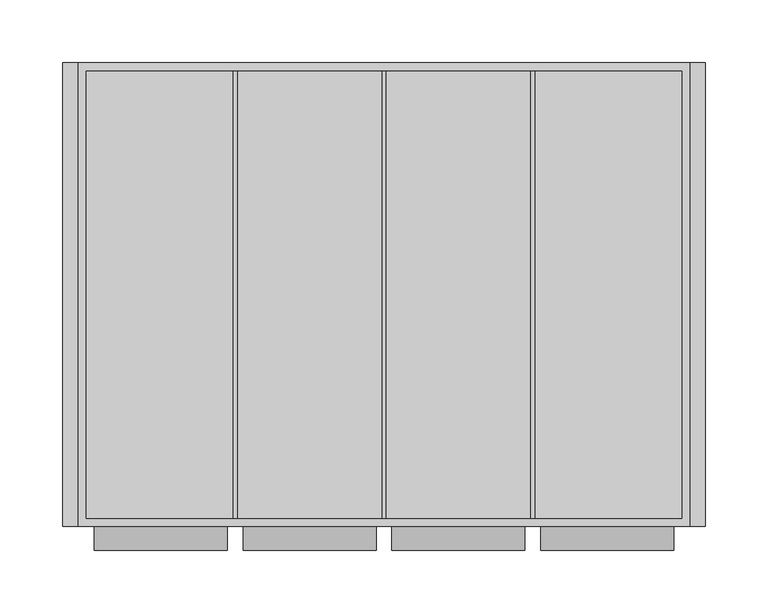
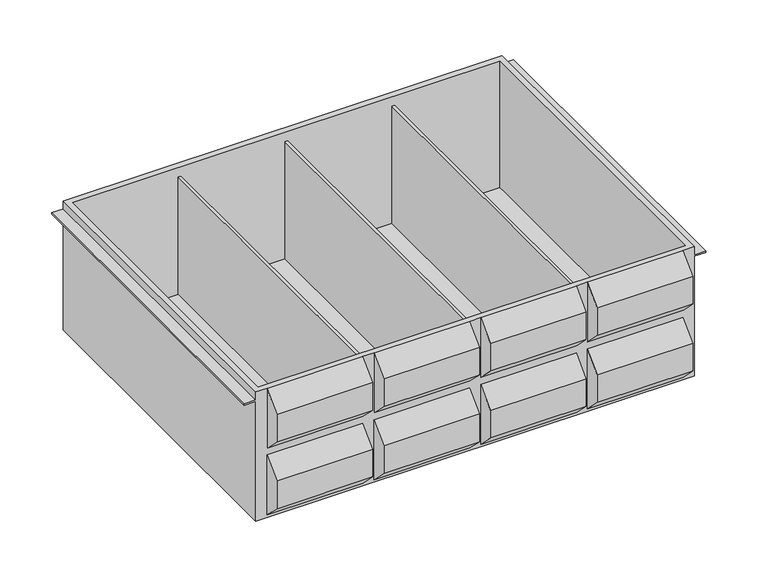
"""IFC4 building model written with IfcOpenShell, lengths in millimetres: furniture geometry, HermanMiller_CoStruc_CO565_Cassette Assembly : 6H x 15D x 20W."""

import ifcopenshell
import ifcopenshell.guid

model = None  # the IFC model being written
_history = None  # IfcOwnerHistory: only IFC2X3 demands one
_inside = {}  # id of a spatial element -> (the spatial element, [elements in it])
_under = {}  # id of a project, library or spatial element -> (it, [spatial elements below it])
_declared = {}  # id of a project -> (the project, [libraries it declares])
_typed = {}  # id of a type object -> (the type object, [elements of that type])
_made_of = {}  # id of a material, layer set ... -> (it, [elements and type objects made of it])


def new_model(schema):
    """Start an empty IFC model of exactly this schema.

    Asked for "IFC4X3", IfcOpenShell would pick the latest addendum, in which some entities
    have other attributes; the version numbers below select the first issue.
    IFC2X3 requires an IfcOwnerHistory on every rooted entity: one is made here for all.
    """
    global model, _history
    if schema == "IFC4X3":
        model = ifcopenshell.file(schema_version=(4, 3, 0, 0))
    else:
        model = ifcopenshell.file(schema=schema)
    _inside.clear()
    _under.clear()
    _declared.clear()
    _typed.clear()
    _made_of.clear()
    _history = None
    if model.schema == "IFC2X3":
        org = make("IfcOrganization", Name="unknown")
        user = make(
            "IfcPersonAndOrganization",
            ThePerson=make("IfcPerson", FamilyName="unknown"),
            TheOrganization=org,
        )
        app = make(
            "IfcApplication",
            ApplicationDeveloper=org,
            Version="unknown",
            ApplicationFullName="unknown",
            ApplicationIdentifier="unknown",
        )
        _history = make(
            "IfcOwnerHistory",
            OwningUser=user,
            OwningApplication=app,
            ChangeAction="ADDED",
            CreationDate=0,
        )
    return model


def make(cls, **values):
    """One entity of the class cls with the attributes given. An attribute that is None is left unset."""
    return model.create_entity(
        cls, **{name: value for name, value in values.items() if value is not None}
    )


def rooted(cls, **values):
    """An entity with a GlobalId (a new one), such as an element, a storey or a relation."""
    return make(cls, GlobalId=ifcopenshell.guid.new(), OwnerHistory=_history, **values)


def si_unit(unit_type, name, prefix=None):
    """IfcSIUnit, for example si_unit("LENGTHUNIT", "METRE", prefix="MILLI")."""
    return make("IfcSIUnit", UnitType=unit_type, Prefix=prefix, Name=name)


def assignment(units):
    """IfcUnitAssignment: the units of a project."""
    return None if units is None else make("IfcUnitAssignment", Units=units)


def point(xyz):
    """IfcCartesianPoint."""
    return None if xyz is None else make("IfcCartesianPoint", Coordinates=xyz)


def direction(xyz):
    """IfcDirection."""
    return None if xyz is None else make("IfcDirection", DirectionRatios=xyz)


def frame(location, z_axis=None, x_axis=None):
    """IfcAxis2Placement3D, a coordinate frame: its origin and axes. An axis left out is left unset."""
    return make(
        "IfcAxis2Placement3D",
        Location=point(location),
        Axis=direction(z_axis),
        RefDirection=direction(x_axis),
    )


def origin():
    """The frame at (0, 0, 0) with its axes left unset."""
    return frame((0.0, 0.0, 0.0))


def place(relative_to, where):
    """IfcLocalPlacement: puts the frame where relative to a parent placement (None: the world)."""
    return make(
        "IfcLocalPlacement", PlacementRelTo=relative_to, RelativePlacement=where
    )


def context(
    kind, dimensions, precision=None, world=None, true_north=None, identifier=None
):
    """IfcGeometricRepresentationContext, for example the 3D "Model" context."""
    return make(
        "IfcGeometricRepresentationContext",
        ContextIdentifier=identifier,
        ContextType=kind,
        CoordinateSpaceDimension=dimensions,
        Precision=precision,
        WorldCoordinateSystem=world,
        TrueNorth=true_north,
    )


def project(units=None, contexts=None):
    """IfcProject with its units and contexts."""
    return rooted(
        "IfcProject",
        Name="project",
        RepresentationContexts=contexts,
        UnitsInContext=assignment(units),
    )


def spatial(cls, under=None, at=None, **own):
    """A site, building, storey or space (cls), placed at a placement, below another one or the project."""
    s = rooted(cls, ObjectPlacement=at, **own)
    if under is not None:
        _under.setdefault(under.id(), (under, []))[1].append(s)
    return s


def faces_of(points, faces, orient=None, outer=None):
    """IfcFace entities. A face is a list of loops; a loop is a list of indices into points, from 0.

    orient and outer hold one flag for each loop. By default every Orientation is true, the
    first loop of a face is its IfcFaceOuterBound and the others are IfcFaceBound.
    """
    made = []
    for i, loops in enumerate(faces):
        bounds = []
        for j, loop in enumerate(loops):
            is_outer = j == 0 if outer is None else outer[i][j]
            bounds.append(
                make(
                    "IfcFaceOuterBound" if is_outer else "IfcFaceBound",
                    Bound=make("IfcPolyLoop", Polygon=[points[k] for k in loop]),
                    Orientation=True if orient is None else orient[i][j],
                )
            )
        made.append(make("IfcFace", Bounds=bounds))
    return made


def faceted_brep(points, faces, orient=None, outer=None, voids=None):
    """IfcFacetedBrep: a solid bounded by flat faces; with voids (closed shells), ...WithVoids."""
    shared = [point(p) for p in points]
    hull = make("IfcClosedShell", CfsFaces=faces_of(shared, faces, orient, outer))
    if voids is None:
        return make("IfcFacetedBrep", Outer=hull)
    return make(
        "IfcFacetedBrepWithVoids",
        Outer=hull,
        Voids=[
            make(cls, CfsFaces=faces_of(shared, fs, o, b)) for cls, fs, o, b in voids
        ],
    )


def shape(context_of_items, identifier, shape_type, items):
    """IfcShapeRepresentation: the items that make up one representation, for example the "Body"."""
    return make(
        "IfcShapeRepresentation",
        ContextOfItems=context_of_items,
        RepresentationIdentifier=identifier,
        RepresentationType=shape_type,
        Items=items,
    )


def source(mapping_origin, context_of_items, identifier, shape_type, items):
    """IfcRepresentationMap: a shape defined once, which mapped items show again and again."""
    return make(
        "IfcRepresentationMap",
        MappingOrigin=mapping_origin,
        MappedRepresentation=shape(context_of_items, identifier, shape_type, items),
    )


def transform(
    local_origin,
    x_axis=None,
    y_axis=None,
    z_axis=None,
    scale=None,
    scale2=None,
    scale3=None,
    uniform=True,
):
    """IfcCartesianTransformationOperator3D, or its non-uniform kind. x_axis, y_axis, z_axis: its Axis1, 2, 3."""
    if uniform:
        return make(
            "IfcCartesianTransformationOperator3D",
            Axis1=direction(x_axis),
            Axis2=direction(y_axis),
            LocalOrigin=point(local_origin),
            Scale=scale,
            Axis3=direction(z_axis),
        )
    return make(
        "IfcCartesianTransformationOperator3DnonUniform",
        Axis1=direction(x_axis),
        Axis2=direction(y_axis),
        LocalOrigin=point(local_origin),
        Scale=scale,
        Axis3=direction(z_axis),
        Scale2=scale2,
        Scale3=scale3,
    )


def mapped(mapping_source, mapping_target):
    """IfcMappedItem: shows the shape of a source again, moved by a transform."""
    return make(
        "IfcMappedItem", MappingSource=mapping_source, MappingTarget=mapping_target
    )


def made_of(thing, what):
    """Note that an element or type object is made of a material, layer set ...; save() writes the relation."""
    if what is not None:
        _made_of.setdefault(what.id(), (what, []))[1].append(thing)
    return thing


def element(
    cls,
    number,
    at=None,
    inside=None,
    cuts=None,
    type_object=None,
    material=None,
    context=None,
    identifier="Body",
    shape_type=None,
    held_by="IfcProductDefinitionShape",
    body=None,
    shapes=None,
    **own,
):
    """One element of the class cls, such as IfcWall. Its Tag is "e" and its number.

    at: its placement. inside: the storey or other place that contains it. cuts: it is an
    opening in that element (IfcRelVoidsElement). A single representation is given by context,
    identifier, shape_type and body (its items); several are given by shapes. held_by: the class
    of the entity that holds the representations. save() writes the other relations.
    """
    e = rooted(cls, Tag="e%d" % number, ObjectPlacement=at, **own)
    if body is not None:
        shapes = [shape(context, identifier, shape_type, body)]
    if shapes is not None:
        e.Representation = make(held_by, Representations=shapes)
    if inside is not None:
        _inside.setdefault(inside.id(), (inside, []))[1].append(e)
    if cuts is not None:
        rooted(
            "IfcRelVoidsElement", RelatingBuildingElement=cuts, RelatedOpeningElement=e
        )
    if type_object is not None:
        _typed.setdefault(type_object.id(), (type_object, []))[1].append(e)
    return made_of(e, material)


def aggregate(whole, parts):
    """IfcRelAggregates: a whole, such as a stair, and the parts it consists of."""
    return rooted("IfcRelAggregates", RelatingObject=whole, RelatedObjects=parts)


def save(model, path):
    """Write the relations noted so far, then the file.

    IfcRelAggregates (storeys below a building ...), IfcRelContainedInSpatialStructure (elements
    in a storey), IfcRelDefinesByType, IfcRelAssociatesMaterial and IfcRelDeclares: one each for
    every whole, place, type object, material and project.
    """
    for whole, parts in _under.values():
        aggregate(whole, parts)
    for where, things in _inside.values():
        rooted(
            "IfcRelContainedInSpatialStructure",
            RelatedElements=things,
            RelatingStructure=where,
        )
    for kind, things in _typed.values():
        rooted("IfcRelDefinesByType", RelatedObjects=things, RelatingType=kind)
    for what, things in _made_of.values():
        rooted("IfcRelAssociatesMaterial", RelatedObjects=things, RelatingMaterial=what)
    for by, libraries in _declared.values():
        rooted("IfcRelDeclares", RelatingContext=by, RelatedDefinitions=libraries)
    model.write(path)


def furniture_a8ecdf84(model_context):
    return source(origin(), model_context, "Body", "Brep", [
        faceted_brep([(-238.125, -176.2125, 773.0109), (-250.825, -176.2125, 773.0109), (-250.825, -176.2125, 763.4986), (-263.525, -176.2125, 763.4986), (-263.525, -176.2125, 761.9111), (-250.825, -176.2125, 761.9111), (-250.825, -176.2125, 620.6109), (238.125, -176.2125, 620.6109), (238.125, -176.2125, 761.9111), (250.825, -176.2125, 761.9111), (250.825, -176.2125, 763.4986), (238.125, -176.2125, 763.4986), (238.125, -176.2125, 773.0109), (225.425, -176.2125, 773.0109), (225.425, -176.2125, 702.4226237), (119.0625, -176.2125, 702.4226237), (119.0625, -176.2125, 773.0109), (106.3625, -176.2125, 773.0109), (106.3625, -176.2125, 702.4226237), (0.0, -176.2125, 702.4226237), (0.0, -176.2125, 773.0109), (-12.7, -176.2125, 773.0109), (-12.7, -176.2125, 702.4226237), (-119.0625, -176.2125, 702.4226237), (-119.0625, -176.2125, 773.0109), (-131.7625, -176.2125, 773.0109), (-131.7625, -176.2125, 702.4226237), (-238.125, -176.2125, 702.4226237), (-131.7625, -176.2125, 694.2253481), (-131.7625, -176.2125, 623.6370719), (-238.125, -176.2125, 623.6370719), (-238.125, -176.2125, 694.2253481), (-119.0625, -176.2125, 623.6370719), (-119.0625, -176.2125, 694.2253481), (-12.7, -176.2125, 694.2253481), (-12.7, -176.2125, 623.6370719), (106.3625, -176.2125, 694.2253481), (106.3625, -176.2125, 623.6370719), (0.0, -176.2125, 623.6370719), (0.0, -176.2125, 694.2253481), (119.0625, -176.2125, 623.6370719), (119.0625, -176.2125, 694.2253481), (225.425, -176.2125, 694.2253481), (225.425, -176.2125, 623.6370719), (-250.825, 195.2625, 773.0109), (238.125, 195.2625, 773.0109), (238.125, 195.2625, 763.4986), (250.825, 195.2625, 763.4986), (250.825, 195.2625, 761.9111), (238.125, 195.2625, 761.9111), (238.125, 195.2625, 620.6109), (-250.825, 195.2625, 620.6109), (-250.825, 195.2625, 761.9111), (-263.525, 195.2625, 761.9111), (-263.525, 195.2625, 763.4986), (-250.825, 195.2625, 763.4986), (231.775, -169.8625, 773.0109), (-244.475, -169.8625, 773.0109), (-244.475, 188.2775, 773.0109), (231.775, 188.2775, 773.0109), (-131.7625, -195.2625, 642.6870719), (-131.7625, -195.2625, 675.1753481), (-131.7625, -195.2625, 753.9609), (-131.7625, -195.2625, 721.4726237), (-238.125, -195.2625, 642.6870719), (-238.125, -195.2625, 675.1753481), (-238.125, -195.2625, 721.4726237), (-238.125, -195.2625, 753.9609), (231.775, -169.8625, 623.6370719), (231.775, 188.2775, 623.6370719), (114.3, 188.2775, 623.6370719), (114.3, -169.8625, 623.6370719), (-244.475, 188.2775, 623.6370719), (-244.475, -169.8625, 623.6370719), (-127.0, -169.8625, 623.6370719), (-127.0, 188.2775, 623.6370719), (-4.7625, -169.8625, 623.6370719), (111.125, -169.8625, 623.6370719), (111.125, 188.2775, 623.6370719), (-4.7625, 188.2775, 623.6370719), (-123.825, -169.8625, 623.6370719), (-7.9375, -169.8625, 623.6370719), (-7.9375, 188.2775, 623.6370719), (-123.825, 188.2775, 623.6370719), (114.3, -169.8625, 761.9111), (111.125, -169.8625, 761.9111), (-4.7625, -169.8625, 761.9111), (-7.9375, -169.8625, 761.9111), (-123.825, -169.8625, 761.9111), (-127.0, -169.8625, 761.9111), (-127.0, 188.2775, 761.9111), (-123.825, 188.2775, 761.9111), (-7.9375, 188.2775, 761.9111), (-4.7625, 188.2775, 761.9111), (111.125, 188.2775, 761.9111), (114.3, 188.2775, 761.9111), (-119.0625, -195.2625, 642.6870719), (-119.0625, -195.2625, 675.1753481), (-119.0625, -195.2625, 721.4726237), (-119.0625, -195.2625, 753.9609), (-12.7, -195.2625, 642.6870719), (-12.7, -195.2625, 675.1753481), (-12.7, -195.2625, 753.9609), (-12.7, -195.2625, 721.4726237), (106.3625, -195.2625, 642.6870719), (106.3625, -195.2625, 675.1753481), (106.3625, -195.2625, 753.9609), (106.3625, -195.2625, 721.4726237), (0.0, -195.2625, 642.6870719), (0.0, -195.2625, 675.1753481), (0.0, -195.2625, 721.4726237), (0.0, -195.2625, 753.9609), (119.0625, -195.2625, 642.6870719), (119.0625, -195.2625, 675.1753481), (119.0625, -195.2625, 721.4726237), (119.0625, -195.2625, 753.9609), (225.425, -195.2625, 642.6870719), (225.425, -195.2625, 675.1753481), (225.425, -195.2625, 753.9609), (225.425, -195.2625, 721.4726237)], [[[0, 1, 2, 3, 4, 5, 6, 7, 8, 9, 10, 11, 12, 13, 14, 15, 16, 17, 18, 19, 20, 21, 22, 23, 24, 25, 26, 27], [28, 29, 30, 31], [32, 33, 34, 35], [36, 37, 38, 39], [40, 41, 42, 43]], [[44, 45, 46, 47, 48, 49, 50, 51, 52, 53, 54, 55]], [[51, 50, 7, 6]], [[7, 50, 49, 8]], [[45, 12, 11, 46]], [[45, 44, 1, 0, 25, 24, 21, 20, 17, 16, 13, 12], [56, 57, 58, 59]], [[51, 6, 5, 52]], [[1, 44, 55, 2]], [[60, 29, 28, 61]], [[25, 62, 63, 26]], [[64, 65, 31, 30]], [[27, 66, 67, 0]], [[29, 60, 64, 30]], [[62, 25, 0, 67]], [[63, 62, 67, 66]], [[26, 63, 66, 27]], [[61, 28, 31, 65]], [[60, 61, 65, 64]], [[68, 69, 70, 71]], [[72, 73, 74, 75]], [[76, 77, 78, 79]], [[80, 81, 82, 83]], [[56, 68, 71, 84, 85, 77, 76, 86, 87, 81, 80, 88, 89, 74, 73, 57]], [[69, 68, 56, 59]], [[69, 59, 58, 72, 75, 90, 91, 83, 82, 92, 93, 79, 78, 94, 95, 70]], [[73, 72, 58, 57]], [[96, 97, 33, 32]], [[23, 98, 99, 24]], [[100, 35, 34, 101]], [[21, 102, 103, 22]], [[97, 96, 100, 101]], [[33, 97, 101, 34]], [[98, 23, 22, 103]], [[99, 98, 103, 102]], [[24, 99, 102, 21]], [[96, 32, 35, 100]], [[104, 37, 36, 105]], [[17, 106, 107, 18]], [[108, 109, 39, 38]], [[19, 110, 111, 20]], [[37, 104, 108, 38]], [[106, 17, 20, 111]], [[107, 106, 111, 110]], [[18, 107, 110, 19]], [[105, 36, 39, 109]], [[104, 105, 109, 108]], [[112, 113, 41, 40]], [[15, 114, 115, 16]], [[116, 43, 42, 117]], [[13, 118, 119, 14]], [[113, 112, 116, 117]], [[41, 113, 117, 42]], [[114, 15, 14, 119]], [[115, 114, 119, 118]], [[16, 115, 118, 13]], [[112, 40, 43, 116]], [[54, 53, 4, 3]], [[55, 54, 3, 2]], [[53, 52, 5, 4]], [[49, 48, 9, 8]], [[47, 46, 11, 10]], [[48, 47, 10, 9]], [[88, 91, 90, 89]], [[84, 95, 94, 85]], [[86, 93, 92, 87]], [[91, 88, 80, 83]], [[89, 90, 75, 74]], [[95, 84, 71, 70]], [[85, 94, 78, 77]], [[93, 86, 76, 79]], [[87, 92, 82, 81]]]),
    ])


if __name__ == "__main__":
    model = new_model("IFC4")
    model_context = context("Model", 3, world=origin())
    ifc_project = project(units=[si_unit("LENGTHUNIT", "METRE", prefix="MILLI")], contexts=[model_context])
    site = spatial("IfcSite", under=ifc_project)
    building = spatial("IfcBuilding", under=site)
    placement = place(None, origin())
    furniture_shape = furniture_a8ecdf84(model_context)
    element("IfcFurniture", 1, ObjectType="HermanMiller_CoStruc_CO565_Cassette Assembly : 6H x 15D x 20W", at=placement, inside=building, context=model_context, shape_type="MappedRepresentation", body=[
        mapped(furniture_shape, transform((0.0, 0.0, 0.0), x_axis=(1.0, 0.0, 0.0), y_axis=(0.0, 1.0, 0.0), z_axis=(0.0, 0.0, 1.0))),
    ])
    save(model, "model.ifc")
